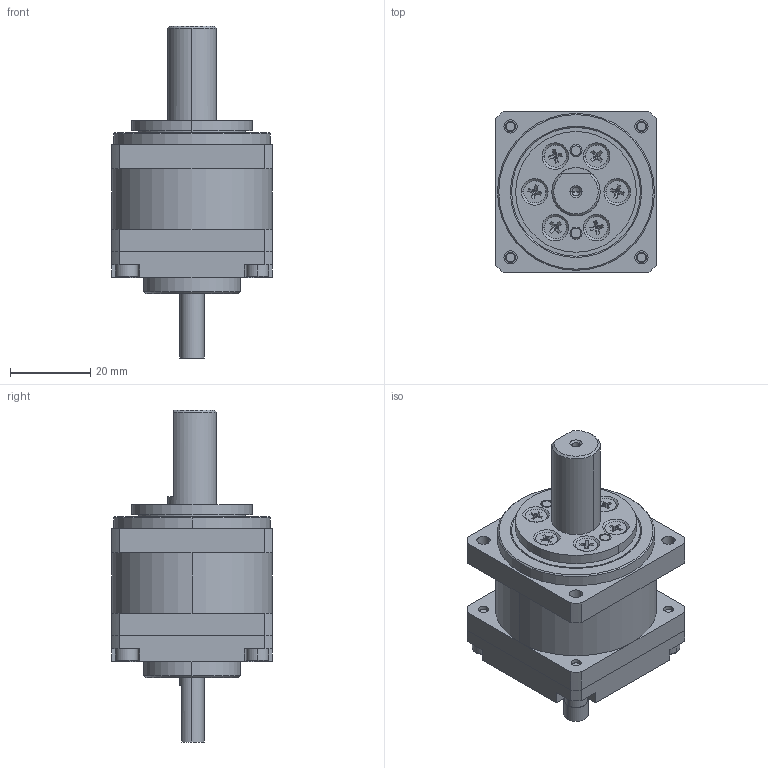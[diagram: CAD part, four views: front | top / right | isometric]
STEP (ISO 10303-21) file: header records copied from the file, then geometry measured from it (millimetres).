
FILE_DESCRIPTION (( 'STEP AP214' ), '1' );
FILE_NAME ('CSF-11-xxx-1U.STEP', '2022-05-09T12:15:04', ( 'PC' ), ( 'Microsoft' ), 'SwSTEP 2.0', 'SolidWorks 2016', '' );
FILE_SCHEMA (( 'AUTOMOTIVE_DESIGN' ));
Length unit declared in the file: millimetre
Products named in the file (25): CSF-11-03-1U_蕼偞; CSF-11蝠脫粣創_蕼偞; 外径27x1.0  O型圈_預設; M1.6-蹟隊_蕼偞; CSF-11-蝠脫粣創黑芛; CSF-11-交叉轴承内圈; 十字槽沉头螺钉  M3x6_預設; CSF-11-交叉轴承外圈; 种隊 3x6_蕼偞; CSF-11-1U-褲极_蕼偞; CSF-11-07-1U_蕼偞; CSF-11-02-1U_蕼偞; 囀鞠褒蹟隊 M3℅8_蕼偞; CSF-11-01-1U_蕼偞; 十字槽沉头螺钉  M1.6×4_預設; CSF-11-06-1U_蕼偞; CSF-11-xxx-1U; CSF-11-1U-疏楷汜ん_蕼偞; 旮僱⑩粣創 696_蕼偞; 深沟球轴承 WA637SA_預設; 柔性轴承27.262X20.73X4.8X4.6_預設; CSF-11-04-1U_蕼偞; 内六角螺钉  M2.5×8_預設; CSF-11-05-1U_蕼偞; 种隊 2x8_蕼偞
Assembly tree (45 placements, depth 3):
  CSF-11-xxx-1U
    CSF-11-1U-褲极_蕼偞
      CSF-11-01-1U_蕼偞
      CSF-11-02-1U_蕼偞
    CSF-11蝠脫粣創_蕼偞
      CSF-11-交叉轴承外圈
      CSF-11-交叉轴承内圈
      CSF-11-蝠脫粣創黑芛
      M1.6-蹟隊_蕼偞
      外径27x1.0  O型圈_預設
    CSF-11-03-1U_蕼偞
    种隊 2x8_蕼偞  x3
    CSF-11-05-1U_蕼偞
    内六角螺钉  M2.5×8_預設  x6
    CSF-11-1U-疏楷汜ん_蕼偞
      CSF-11-04-1U_蕼偞
      柔性轴承27.262X20.73X4.8X4.6_預設
      深沟球轴承 WA637SA_預設
      旮僱⑩粣創 696_蕼偞
    CSF-11-06-1U_蕼偞
    十字槽沉头螺钉  M1.6×4_預設  x6
    囀鞠褒蹟隊 M3℅8_蕼偞  x4
    CSF-11-07-1U_蕼偞
    种隊 3x6_蕼偞  x2
    十字槽沉头螺钉  M3x6_預設  x6
Bounding box: 40 x 40 x 82.5 mm (x, y, z)
Volume: 47178.3 mm3; surface area: 39277.8 mm2
Topology: 71 solids, 71 shells, 1672 faces, 3676 edges, 2116 vertices
Faces by surface type: plane 690, cylinder 485, cone 233, bspline 208, torus 56
Entity records: 33348 total; most frequent: CARTESIAN_POINT 9525, DIRECTION 4701, ORIENTED_EDGE 4400, EDGE_CURVE 2200, AXIS2_PLACEMENT_3D 1982, VERTEX_POINT 1384, EDGE_LOOP 1212, CIRCLE 1079
